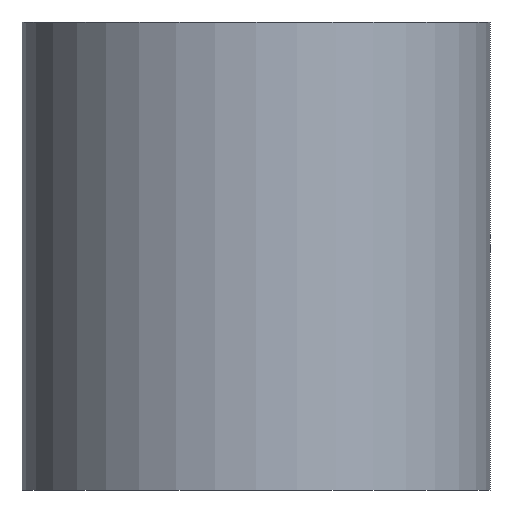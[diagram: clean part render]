
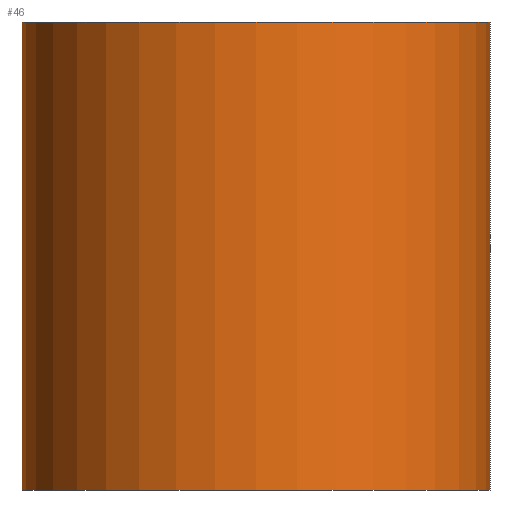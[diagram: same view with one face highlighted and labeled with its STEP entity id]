
A CAD part, front view. The second image highlights one B-rep face of the part: STEP entity #46.
In plain terms, the highlighted cylindrical face has radius 25 mm (diameter 50 mm), a partial arc.
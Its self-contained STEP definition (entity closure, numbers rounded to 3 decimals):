
#46=ADVANCED_FACE('',(#106),#107,.T.);
#106=FACE_OUTER_BOUND('',#181,.T.);
#107=CYLINDRICAL_SURFACE('',#182,25.0);
#181=EDGE_LOOP('',(#250,#251,#252,#253));
#182=AXIS2_PLACEMENT_3D('',#254,#255,#256);
#250=ORIENTED_EDGE('',*,*,#415,.F.);
#251=ORIENTED_EDGE('',*,*,#416,.F.);
#252=ORIENTED_EDGE('',*,*,#417,.F.);
#253=ORIENTED_EDGE('',*,*,#418,.F.);
#254=CARTESIAN_POINT('',(0.0,0.0,-25.0));
#255=DIRECTION('',(0.0,0.0,-1.0));
#256=DIRECTION('',(1.0,0.0,0.0));
#415=EDGE_CURVE('',#477,#478,#479,.T.);
#416=EDGE_CURVE('',#480,#477,#481,.T.);
#417=EDGE_CURVE('',#482,#480,#483,.T.);
#418=EDGE_CURVE('',#478,#482,#484,.T.);
#477=VERTEX_POINT('',#564);
#478=VERTEX_POINT('',#565);
#479=LINE('',#566,#567);
#480=VERTEX_POINT('',#568);
#481=CIRCLE('',#569,25.0);
#482=VERTEX_POINT('',#570);
#483=LINE('',#571,#572);
#484=CIRCLE('',#573,25.0);
#564=CARTESIAN_POINT('',(25.0,0.0,0.0));
#565=CARTESIAN_POINT('',(25.0,0.0,-50.0));
#566=CARTESIAN_POINT('',(25.0,0.,-25.0));
#567=VECTOR('',#668,1.0);
#568=CARTESIAN_POINT('',(-25.0,0.,0.0));
#569=AXIS2_PLACEMENT_3D('',#669,#670,#671);
#570=CARTESIAN_POINT('',(-25.0,0.,-50.0));
#571=CARTESIAN_POINT('',(-25.0,0.,-25.0));
#572=VECTOR('',#672,1.0);
#573=AXIS2_PLACEMENT_3D('',#673,#674,#675);
#668=DIRECTION('',(0.0,0.0,-1.0));
#669=CARTESIAN_POINT('',(0.0,0.0,0.0));
#670=DIRECTION('',(0.0,0.0,1.0));
#671=DIRECTION('',(1.0,0.0,0.0));
#672=DIRECTION('',(-0.0,-0.0,1.0));
#673=CARTESIAN_POINT('',(0.0,0.0,-50.0));
#674=DIRECTION('',(0.0,0.0,-1.0));
#675=DIRECTION('',(1.0,0.0,0.0));
